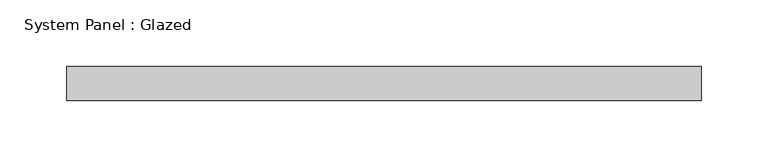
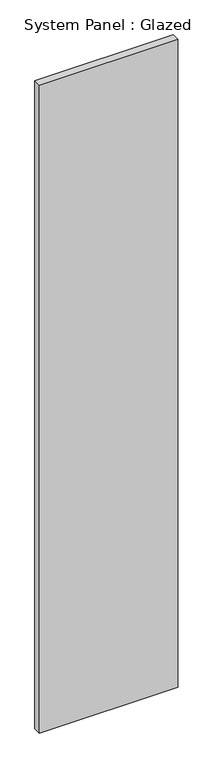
"""IFC4 building model written with IfcOpenShell, lengths in millimetres: plate geometry, System Panel : Glazed."""

from ifc_helpers import new_model, si_unit, origin, origin_with_axes, place, context, project, spatial, polyline, outline, extrude, source, transform, mapped, element, save


def system_panel_glazed_463703e3(model_context):
    return source(origin(), model_context, "Body", "SweptSolid", [
        extrude(outline(polyline([(236.888842, 19.05), (-236.888842, 19.05), (-236.888842, 44.45), (236.888842, 44.45), (236.888842, 19.05)])), origin_with_axes(), (0.0, 0.0, 1.0), 2343.15),
    ])


if __name__ == "__main__":
    model = new_model("IFC4")
    model_context = context("Model", 3, world=origin())
    ifc_project = project(units=[si_unit("LENGTHUNIT", "METRE", prefix="MILLI")], contexts=[model_context])
    site = spatial("IfcSite", under=ifc_project)
    building = spatial("IfcBuilding", under=site)
    placement = place(None, origin())
    system_panel_glazed_shape = system_panel_glazed_463703e3(model_context)
    element("IfcPlate", 1, ObjectType="System Panel : Glazed", at=placement, inside=building, context=model_context, shape_type="MappedRepresentation", body=[
        mapped(system_panel_glazed_shape, transform((0.0, 0.0, 0.0), x_axis=(1.0, 0.0, 0.0), y_axis=(0.0, 1.0, 0.0), z_axis=(0.0, 0.0, 1.0))),
    ])
    save(model, "model.ifc")
